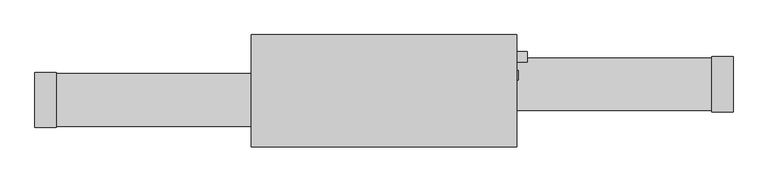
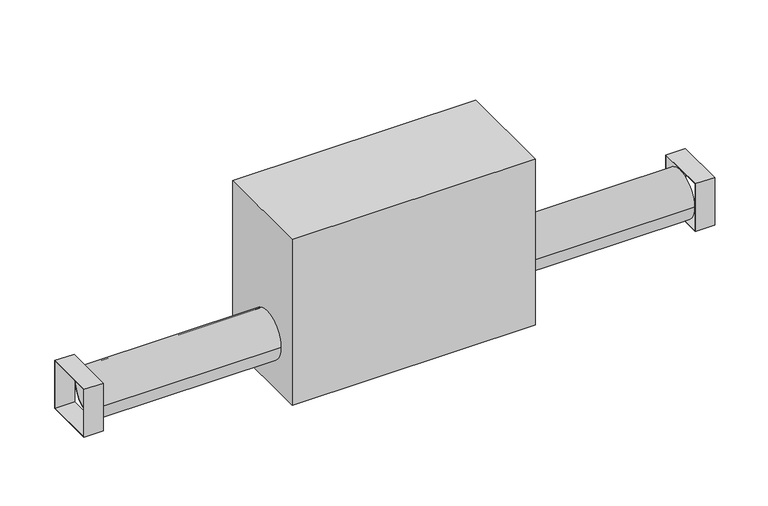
"""IFC4 building model written with IfcOpenShell, lengths in millimetres: proxy geometry, Energy_Recovery_Ventilator_ERVH100SE : ERVH100SE."""

from ifc_helpers import new_model, si_unit, point, frame, frame_2d, origin, origin_with_axes, place, context, project, spatial, polyline, circle_curve, trimmed, segment, composite_curve, outline, extrude, source, transform, mapped, element, save


def mechanical_equipment_6443fe90(model_context):
    return source(origin(), model_context, "Body", "SweptSolid", [
        extrude(outline(polyline([(322.0, -109.3864112), (319.0, -109.3864112), (319.0, -86.0184112), (322.0, -86.0184112), (322.0, -109.3864112)])), frame((0.0, 0.0, 221.9735293), z_axis=(0.0, 0.0, 1.0), x_axis=(1.0, 0.0, 0.0)), (0.0, 0.0, 1.0), 53.848),
        extrude(outline(composite_curve([segment(trimmed(circle_curve(frame_2d((-53.2279155, 248.6240154)), 12.7), [point((-65.9279155, 248.6240154))], [point((-40.5279155, 248.6240154))], False, "CARTESIAN"), True, "CONTINUOUS"), segment(trimmed(circle_curve(frame_2d((-53.2279155, 248.6240154)), 12.7), [point((-40.5279155, 248.6240154))], [point((-65.9279155, 248.6240154))], False, "CARTESIAN"), True, "CONTINUOUS")], self_intersect=False)), frame((319.0, 0.0, 0.0), z_axis=(1.0, 0.0, 0.0), x_axis=(0.0, 1.0, 0.0)), (0.0, 0.0, 1.0), 25.0),
        extrude(outline(polyline([(-222.8490585, 197.4562165), (-90.3575342, 197.4562165), (-90.3575342, 64.9646922), (-222.8490585, 64.9646922), (-222.8490585, 197.4562165)]), holes=[polyline([(-91.6347836, 66.3693821), (-91.6347836, 196.1789672), (-221.5718092, 196.1789672), (-221.5718092, 66.3693821), (-91.6347836, 66.3693821)])]), frame((-838.0, 0.0, 0.0), z_axis=(1.0, 0.0, 0.0), x_axis=(0.0, 1.0, 0.0)), (0.0, 0.0, 1.0), 51.0),
        extrude(outline(polyline([(-185.4705923, 177.1362165), (-52.979068, 177.1362165), (-52.979068, 44.6446922), (-185.4705923, 44.6446922), (-185.4705923, 177.1362165)]), holes=[polyline([(-184.193343, 175.8589669), (-184.193343, 46.0493821), (-54.2563176, 46.0493821), (-54.2563176, 175.8589669), (-184.193343, 175.8589669)])]), frame((787.0, 0.0, 0.0), z_axis=(1.0, 0.0, 0.0), x_axis=(0.0, 1.0, 0.0)), (0.0, 0.0, 1.0), 51.0),
        extrude(outline(composite_curve([segment(trimmed(circle_curve(frame_2d((-156.7656258, 131.048125)), 63.5), [point((-93.2656258, 131.048125))], [point((-220.2656258, 131.048125))], False, "CARTESIAN"), True, "CONTINUOUS"), segment(trimmed(circle_curve(frame_2d((-156.7656258, 131.048125)), 63.5), [point((-220.2656258, 131.048125))], [point((-93.2656258, 131.048125))], False, "CARTESIAN"), True, "CONTINUOUS")], self_intersect=False), holes=[composite_curve([segment(trimmed(circle_curve(frame_2d((-156.7656258, 131.048125)), 60.5), [point((-96.2656258, 131.048125))], [point((-217.2656258, 131.048125))], True, "CARTESIAN"), True, "CONTINUOUS"), segment(trimmed(circle_curve(frame_2d((-156.7656258, 131.048125)), 60.5), [point((-217.2656258, 131.048125))], [point((-96.2656258, 131.048125))], True, "CARTESIAN"), True, "CONTINUOUS")], self_intersect=False)]), frame((-787.0, 0.0, 0.0), z_axis=(1.0, 0.0, 0.0), x_axis=(0.0, 1.0, 0.0)), (0.0, 0.0, 1.0), 468.0),
        extrude(outline(composite_curve([segment(trimmed(circle_curve(frame_2d((-119.0625008, 110.728125)), 63.5), [point((-182.5625008, 110.728125))], [point((-55.5625008, 110.728125))], False, "CARTESIAN"), True, "CONTINUOUS"), segment(trimmed(circle_curve(frame_2d((-119.0625008, 110.728125)), 63.5), [point((-55.5625008, 110.728125))], [point((-182.5625008, 110.728125))], False, "CARTESIAN"), True, "CONTINUOUS")], self_intersect=False), holes=[composite_curve([segment(trimmed(circle_curve(frame_2d((-119.0625008, 110.728125)), 60.2976031), [point((-179.3601038, 110.728125))], [point((-58.7648977, 110.728125))], True, "CARTESIAN"), True, "CONTINUOUS"), segment(trimmed(circle_curve(frame_2d((-119.0625008, 110.728125)), 60.2976031), [point((-58.7648977, 110.728125))], [point((-179.3601038, 110.728125))], True, "CARTESIAN"), True, "CONTINUOUS")], self_intersect=False)]), frame((319.0, 0.0, 0.0), z_axis=(1.0, 0.0, 0.0), x_axis=(0.0, 1.0, 0.0)), (0.0, 0.0, 1.0), 468.0),
        extrude(outline(polyline([(319.0875, -269.8750008), (-319.0875, -269.8750008), (-319.0875, 0.0), (319.0875, 0.0), (319.0875, -269.8750008)])), origin_with_axes(), (0.0, 0.0, 1.0), 460.362307),
    ])


if __name__ == "__main__":
    model = new_model("IFC4")
    model_context = context("Model", 3, world=origin())
    ifc_project = project(units=[si_unit("LENGTHUNIT", "METRE", prefix="MILLI")], contexts=[model_context])
    site = spatial("IfcSite", under=ifc_project)
    building = spatial("IfcBuilding", under=site)
    placement = place(None, origin())
    mechanical_equipment_shape = mechanical_equipment_6443fe90(model_context)
    element("IfcBuildingElementProxy", 1, Name="Energy_Recovery_Ventilator_ERVH100SE : ERVH100SE", ObjectType="Energy_Recovery_Ventilator_ERVH100SE : ERVH100SE", at=placement, inside=building, context=model_context, shape_type="MappedRepresentation", body=[
        mapped(mechanical_equipment_shape, transform((0.0, 0.0, 0.0), x_axis=(1.0, 0.0, 0.0), y_axis=(0.0, 1.0, 0.0), z_axis=(0.0, 0.0, 1.0))),
    ])
    save(model, "model.ifc")
